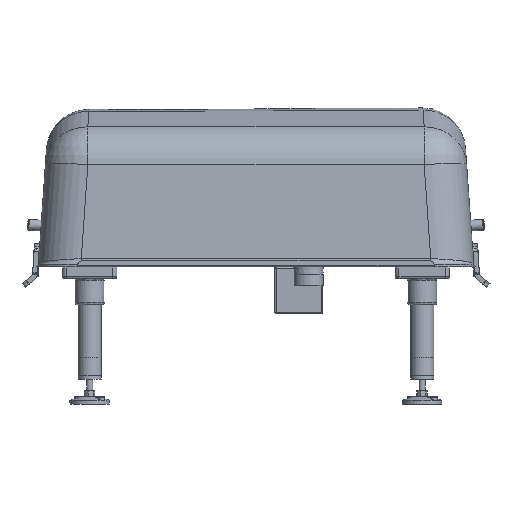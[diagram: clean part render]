
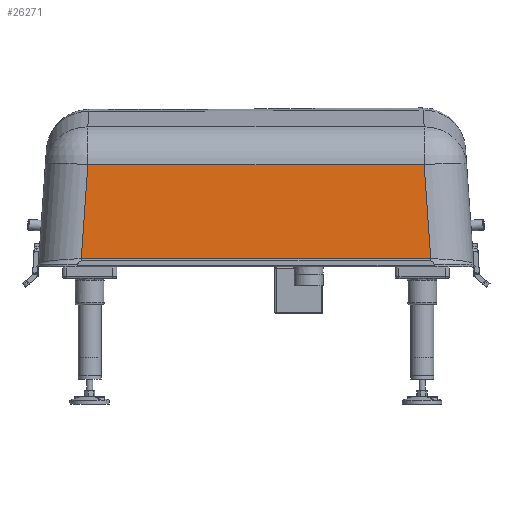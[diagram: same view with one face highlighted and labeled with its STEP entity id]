
A CAD part, left-side view. The second image highlights one B-rep face of the part: STEP entity #26271.
In plain terms, the highlighted planar face has unit normal (-0.998, 0, 0.061).
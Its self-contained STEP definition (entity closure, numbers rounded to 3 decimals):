
#1001=LINE('',#53148,#3053);
#1002=LINE('',#53150,#3054);
#1003=LINE('',#53152,#3055);
#1004=LINE('',#53153,#3056);
#3053=VECTOR('',#32864,24.425);
#3054=VECTOR('',#32865,90.273);
#3055=VECTOR('',#32866,24.425);
#3056=VECTOR('',#32867,86.872);
#4751=PLANE('',#28406);
#6426=FACE_OUTER_BOUND('',#8227,.T.);
#8227=EDGE_LOOP('',(#19583,#19584,#19585,#19586));
#11892=VERTEX_POINT('',#53146);
#11893=VERTEX_POINT('',#53147);
#11894=VERTEX_POINT('',#53149);
#11895=VERTEX_POINT('',#53151);
#14746=EDGE_CURVE('',#11892,#11893,#1001,.T.);
#14747=EDGE_CURVE('',#11893,#11894,#1002,.F.);
#14748=EDGE_CURVE('',#11894,#11895,#1003,.F.);
#14749=EDGE_CURVE('',#11895,#11892,#1004,.T.);
#19583=ORIENTED_EDGE('',*,*,#14746,.T.);
#19584=ORIENTED_EDGE('',*,*,#14747,.T.);
#19585=ORIENTED_EDGE('',*,*,#14748,.T.);
#19586=ORIENTED_EDGE('',*,*,#14749,.T.);
#26271=ADVANCED_FACE('',(#6426),#4751,.T.);
#28406=AXIS2_PLACEMENT_3D('',#53145,#32862,#32863);
#32862=DIRECTION('center_axis',(-0.998,0.,0.061));
#32863=DIRECTION('ref_axis',(0.061,0.,0.998));
#32864=DIRECTION('',(-0.061,0.07,-0.996));
#32865=DIRECTION('',(0.,1.,0.));
#32866=DIRECTION('',(-0.061,-0.07,-0.996));
#32867=DIRECTION('',(0.,1.,0.));
#53145=CARTESIAN_POINT('Origin',(-19.75,-56.263,4.143));
#53146=CARTESIAN_POINT('',(-18.146,43.423,30.372));
#53147=CARTESIAN_POINT('',(-19.633,45.124,6.051));
#53148=CARTESIAN_POINT('',(-18.146,43.423,30.372));
#53149=CARTESIAN_POINT('',(-19.633,-45.149,6.051));
#53150=CARTESIAN_POINT('',(-19.633,-45.149,6.051));
#53151=CARTESIAN_POINT('',(-18.146,-43.449,30.372));
#53152=CARTESIAN_POINT('',(-18.146,-43.449,30.372));
#53153=CARTESIAN_POINT('',(-18.146,-43.449,30.372));
